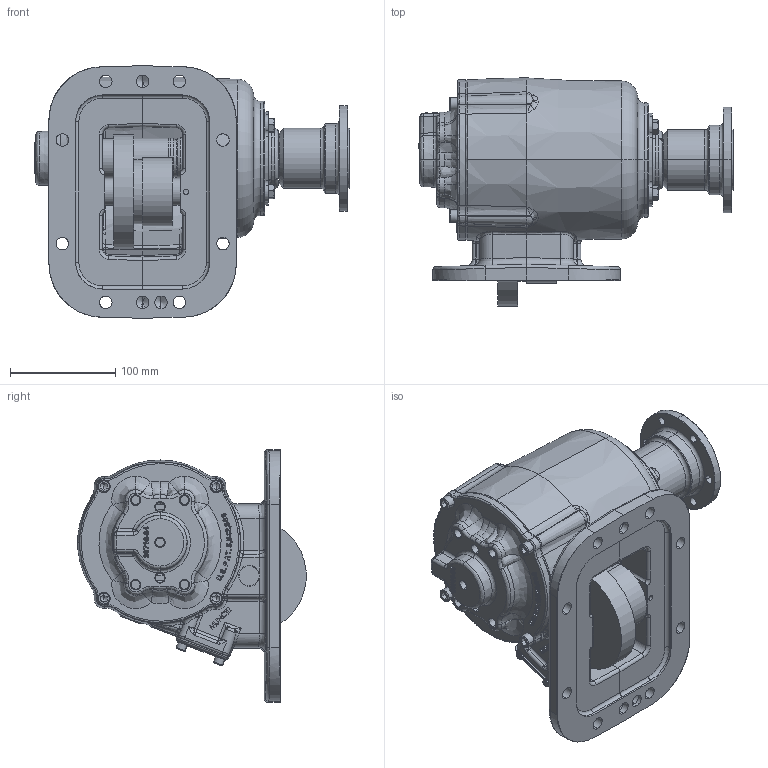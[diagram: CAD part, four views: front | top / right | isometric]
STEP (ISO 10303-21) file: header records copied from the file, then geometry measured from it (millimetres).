
FILE_DESCRIPTION (( 'STEP AP203' ), '1' );
FILE_NAME ('CS8S-XXXXX-X32X.STEP', '2012-06-11T14:00:53', ( '' ), ( '' ), 'SwSTEP 2.0', 'SolidWorks 2012', '' );
FILE_SCHEMA (( 'CONFIG_CONTROL_DESIGN' ));
Products named in the file (6): CS8S-XXXXX-X32X; 19T33233; 15T34576; 14T37378; 06t37372a; CS8S-XXXXX-X3XX
Assembly tree (8 placements, depth 2):
  CS8S-XXXXX-X32X
    CS8S-XXXXX-X3XX
    06t37372a
    14T37378
    15T34576
    19T33233  x4
Bounding box: 299.11 x 216.55 x 239.61 mm (x, y, z)
Volume: 2089190 mm3; surface area: 480356.6 mm2
Topology: 5 solids, 24 shells, 2209 faces, 5438 edges, 3338 vertices
Faces by surface type: bspline 728, plane 586, cylinder 503, cone 258, torus 126, sphere 8
Entity records: 107663 total; most frequent: CARTESIAN_POINT 62145, ORIENTED_EDGE 10290, DIRECTION 7756, EDGE_CURVE 5146, VERTEX_POINT 3206, AXIS2_PLACEMENT_3D 2892, EDGE_LOOP 2337, FACE_OUTER_BOUND 2110
